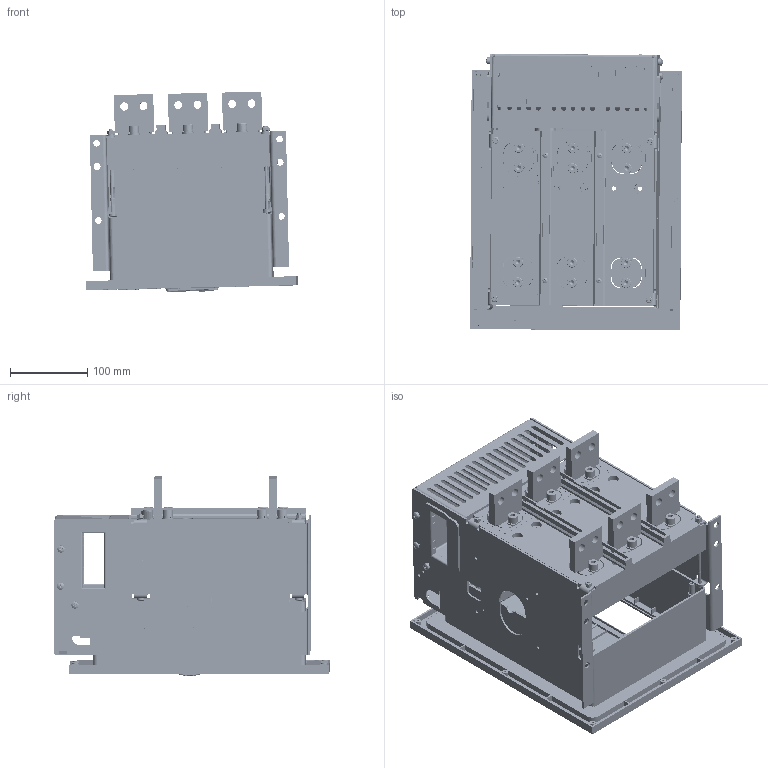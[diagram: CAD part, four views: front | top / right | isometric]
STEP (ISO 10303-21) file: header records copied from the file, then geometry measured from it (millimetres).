
FILE_DESCRIPTION (( 'STEP AP214' ), '1' );
FILE_NAME ('TEW5-1600 F 3P 200A-1000A.STEP', '2026-01-09T11:02:53', ( '' ), ( '' ), 'SwSTEP 2.0', 'SolidWorks 2024', '' );
FILE_SCHEMA (( 'AUTOMOTIVE_DESIGN' ));
Length unit declared in the file: millimetre
Products named in the file (81): ZHEN11MM-2_ASM_6_ASM.stp.STEP.STEP; TEW5-1600-3P-F.stp.STEP.STEP; MANIFOLD_SOLID_BREP_683034.stp.STEP.STEP; CHABAN-GUDINGSHI-3P_ASM_5_ASM.stp.STEP.STEP; 8TZD-320-3001_6.stp.STEP.STEP; CHATOU10_3.stp.STEP.STEP; GB90748-M3_25_ASM_2_ASM.stp.STEP.STEP; 8TZD_253_1133_2_2.stp.STEP.STEP; XIAJIEXIANDUANZI-GUDINGSHI-3P_A_ASM.stp.STEP.STEP; 8TZD_043_1151_2.stp.STEP.STEP; GB6170-M5_2.stp.STEP.STEP; 5TZD_005_1014_ASM_2_ASM.stp.STEP.STEP; GB9074-M8_20_ASM_3_ASM.stp.STEP.STEP; bez shTEW5-1600-3P-F.STEP; GB876-86_2.stp.STEP.STEP; KTAO_6.stp.STEP.STEP; TANZHEN11-1_6.stp.STEP.STEP; TAO_6.stp.STEP.STEP; GB-T848-5_4.stp.STEP.STEP; 8TZD_742_1377_2.stp.STEP.STEP; DUANZI11MM_6.stp.STEP.STEP; DUANGAI11-1_6.stp.STEP.STEP; 8TZD_282_1114_2.stp.STEP.STEP; TEW5-1600 F 3P 200A-1000A; 8TZD_212_1010_2.stp.STEP.STEP; 8TZD_860_1139_4_ASM.stp.STEP.STEP; 8TZD_325_1269_2.stp.STEP.STEP; DUANZI11MM_ASM_6_ASM.stp.STEP.STEP; 8TZD_050_1053_10.stp.STEP.STEP; 8TZD_253_1143_2.stp.STEP.STEP; GB-T93-87-3_4.stp.STEP.STEP; GB-T93-87-8_3.stp.STEP.STEP; 8TZD_253_1133_1_2.stp.STEP.STEP; CHABAN_001-GUDINGSHI-3P_5.stp.STEP.STEP; 8TZD_300_1259_13.stp.STEP.STEP; TANZHEN10-2_6.stp.STEP.STEP; 5TZD_055_1012_ASM_3_ASM.stp.STEP.STEP; DUANGAI10MM_6.stp.STEP.STEP; GB848-85-3_4.stp.STEP.STEP; 8TZD-340-3001_5.stp.STEP.STEP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
Assembly tree (174 placements, depth 9):
  TEW5-1600 F 3P 200A-1000A
    bez shTEW5-1600-3P-F.STEP
      TEW5-1600-3P-F.STEP.STEP
        TEW5-1600-3P-F.stp.STEP.STEP
          2TZD_256_1103_ASM_8_ASM.stp.STEP.STEP
            5TZD_084_1001_ASM_4_ASM.stp.STEP.STEP
              5TZD_055_1012_ASM_3_ASM.stp.STEP.STEP
                8TZD_055_1003_12.stp.STEP.STEP
            5TZD_005_1014_ASM_2_ASM.stp.STEP.STEP
              5TZD_005_1019_ASM_2_ASM.stp.STEP.STEP
                8TZD_005_1035__2.stp.STEP.STEP
                8TZD_325_1269_2.stp.STEP.STEP
              8TZD_860_1139_4_ASM.stp.STEP.STEP
                MANIFOLD_SOLID_BREP_681515.stp.STEP.STEP
                MANIFOLD_SOLID_BREP_683034.stp.STEP.STEP
              8TZD_282_1101_2.stp.STEP.STEP  x2
              8TZD_253_1133_1_2.stp.STEP.STEP
              8TZD_253_1133_2_2.stp.STEP.STEP
              8TZD_253_1143_2.stp.STEP.STEP
              8TZD_282_1114_2.stp.STEP.STEP
            5TZD_300_1043_ASM_2_ASM.stp.STEP.STEP
              8TZD_300_1121_2.stp.STEP.STEP
              8TZD_742_1377_2.stp.STEP.STEP
              GB876-86_2.stp.STEP.STEP  x4
            5TZD_574_1020_ASM_4_ASM.stp.STEP.STEP
              DUANZI10MM_ASM_6_ASM.stp.STEP.STEP  x10
                ZHEN10MM-1_ASM_6_ASM.stp.STEP.STEP
                  TANZHEN10-1_6.stp.STEP.STEP
                  TAO_6.stp.STEP.STEP  x2
                ZHEN10MM-3_ASM_6_ASM.stp.STEP.STEP
                  TANZHEN10-3_6.stp.STEP.STEP
                  TAO_6.stp.STEP.STEP  x2
                ZHEN10MM-2_ASM_6_ASM.stp.STEP.STEP
                  TANZHEN10-2_6.stp.STEP.STEP
                  TAO_6.stp.STEP.STEP  x2
                DUANZI10MM_6.stp.STEP.STEP
                DUANGAI10MM_6.stp.STEP.STEP
              DUANZI11MM_ASM_6_ASM.stp.STEP.STEP  x6
                ZHEN11MM-1_ASM_6_ASM.stp.STEP.STEP
                  TANZHEN11-1_6.stp.STEP.STEP
                  KTAO_6.stp.STEP.STEP
                ZHEN11MM-2_ASM_6_ASM.stp.STEP.STEP
                  TANZHEN11-2_6.stp.STEP.STEP
                  KTAO_6.stp.STEP.STEP
                ZHEN11MM-3_ASM_6_ASM.stp.STEP.STEP
                  TANZHEN11-3_6.stp.STEP.STEP
                  KTAO_6.stp.STEP.STEP
                DUANZI11MM_6.stp.STEP.STEP
                DUANGAI11-1_6.stp.STEP.STEP
                DUANGAI11-2_6.stp.STEP.STEP
              CHABAN-GUDINGSHI-3P_ASM_5_ASM.stp.STEP.STEP
                CHABAN_001-GUDINGSHI-3P_5.stp.STEP.STEP
                BIAOPAI-3_6.stp.STEP.STEP
              XIAJIEXIANDUANZI-GUDINGSHI-3P_A_ASM.stp.STEP.STEP
                XIAJIEXIANZUO001-GUDINGSHI-3P_4.stp.STEP.STEP
                CHATOU10_3.stp.STEP.STEP  x10
                CHATOU11_3.stp.STEP.STEP  x6
              SHANGJIEXIANZUO_GUDINGSHI-3P_14.stp.STEP.STEP
            GB90748-M5_12_ASM_2_ASM.stp.STEP.STEP  x6
              GB-T818-85-M5X12_4.stp.STEP.STEP
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Bounding box: 274.32 x 358.11 x 259.71 mm (x, y, z)
Volume: 2141952.9 mm3; surface area: 1886836.2 mm2
Topology: 349 solids, 371 shells, 36474 faces, 100159 edges, 65185 vertices
Faces by surface type: plane 26415, cylinder 5694, bspline 3586, cone 354, torus 300, sphere 125
Entity records: 509700 total; most frequent: CARTESIAN_POINT 154635, ORIENTED_EDGE 80468, DIRECTION 59424, EDGE_CURVE 40272, LINE 28724, VECTOR 28724, VERTEX_POINT 26467, EDGE_LOOP 16053
